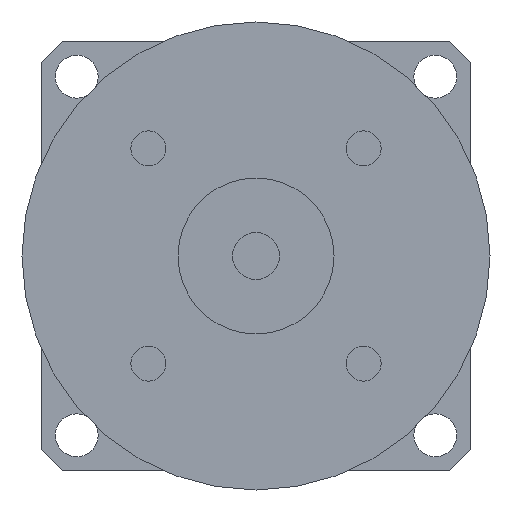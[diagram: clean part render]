
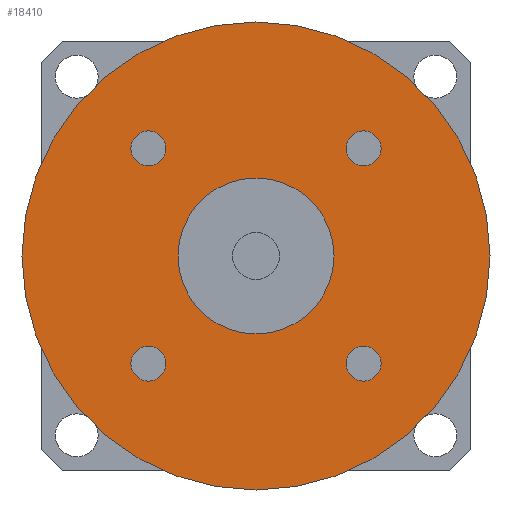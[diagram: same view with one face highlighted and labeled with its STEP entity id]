
A CAD part, left-side view. The second image highlights one B-rep face of the part: STEP entity #18410.
In plain terms, the highlighted planar face has unit normal (-1, 0, 0) as drawn and (0, 0, -1) by its records, which use the part's own axes.
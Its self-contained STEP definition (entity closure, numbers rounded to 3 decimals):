
#11090=CARTESIAN_POINT('',(13.789,-11.539,-58.));
#11100=VERTEX_POINT('',#11090);
#11280=CARTESIAN_POINT('',(13.789,-16.039,-58.));
#11290=VERTEX_POINT('',#11280);
#11320=CARTESIAN_POINT('',(13.789,-13.789,-58.));
#11330=DIRECTION('',(0.,0.,-1.));
#11340=DIRECTION('',(1.,0.,0.));
#11350=AXIS2_PLACEMENT_3D('',#11320,#11330,#11340);
#11360=CIRCLE('',#11350,2.25);
#11370=CARTESIAN_POINT('',(16.039,-13.789,-58.));
#11380=VERTEX_POINT('',#11370);
#11390=EDGE_CURVE('',#11380,#11290,#11360,.T.);
#11410=EDGE_CURVE('',#11100,#11380,#11360,.T.);
#12700=CARTESIAN_POINT('',(0.,0.,
-58.));
#12710=DIRECTION('',(0.,0.,1.));
#12720=DIRECTION('',(0.,-1.,0.));
#12730=AXIS2_PLACEMENT_3D('',#12700,#12710,#12720);
#12740=CIRCLE('',#12730,10.);
#12750=CARTESIAN_POINT('',(0.,-10.,-58.));
#12760=VERTEX_POINT('',#12750);
#12770=CARTESIAN_POINT('',(10.,0.,-58.))
;
#12780=VERTEX_POINT('',#12770);
#12790=EDGE_CURVE('',#12760,#12780,#12740,.T.);
#13020=CARTESIAN_POINT('',(-10.,0.,-58.));
#13030=VERTEX_POINT('',#13020);
#13060=EDGE_CURVE('',#13030,#12760,#12740,.T.);
#17340=CARTESIAN_POINT('',(30.,0.,-58.));
#17350=VERTEX_POINT('',#17340);
#17380=CARTESIAN_POINT('',(0.,0.,
-58.));
#17390=DIRECTION('',(0.,0.,1.));
#17400=DIRECTION('',(0.,-1.,0.));
#17410=AXIS2_PLACEMENT_3D('',#17380,#17390,#17400);
#17420=CIRCLE('',#17410,30.);
#17430=CARTESIAN_POINT('',(0.,-30.,-58.));
#17440=VERTEX_POINT('',#17430);
#17450=EDGE_CURVE('',#17440,#17350,#17420,.T.);
#17470=CARTESIAN_POINT('',(-30.,0.,-58.));
#17480=VERTEX_POINT('',#17470);
#17490=EDGE_CURVE('',#17480,#17440,#17420,.T.);
#17610=CARTESIAN_POINT('',(0.,0.,
-58.));
#17620=DIRECTION('',(0.,0.,1.));
#17630=DIRECTION('',(-1.,0.,0.));
#17640=AXIS2_PLACEMENT_3D('',#17610,#17620,#17630);
#17650=PLANE('',#17640);
#17660=CARTESIAN_POINT('',(13.789,13.789,-58.));
#17670=DIRECTION('',(0.,0.,-1.));
#17680=DIRECTION('',(0.,1.,0.));
#17690=AXIS2_PLACEMENT_3D('',#17660,#17670,#17680);
#17700=CIRCLE('',#17690,2.25);
#17710=CARTESIAN_POINT('',(13.789,16.039,-58.));
#17720=VERTEX_POINT('',#17710);
#17730=CARTESIAN_POINT('',(16.039,13.789,-58.));
#17740=VERTEX_POINT('',#17730);
#17750=EDGE_CURVE('',#17720,#17740,#17700,.T.);
#17760=ORIENTED_EDGE('',*,*,#17750,.F.);
#17770=CARTESIAN_POINT('',(11.539,13.789,-58.));
#17780=VERTEX_POINT('',#17770);
#17790=EDGE_CURVE('',#17740,#17780,#17700,.T.);
#17800=ORIENTED_EDGE('',*,*,#17790,.F.);
#17810=EDGE_CURVE('',#17780,#17720,#17700,.T.);
#17820=ORIENTED_EDGE('',*,*,#17810,.F.);
#17830=EDGE_LOOP('',(#17820,#17800,#17760));
#17840=FACE_BOUND('',#17830,.T.);
#17850=CARTESIAN_POINT('',(-13.789,13.789,-58.));
#17860=DIRECTION('',(0.,0.,-1.));
#17870=DIRECTION('',(-1.,0.,0.));
#17880=AXIS2_PLACEMENT_3D('',#17850,#17860,#17870);
#17890=CIRCLE('',#17880,2.25);
#17900=CARTESIAN_POINT('',(-16.039,13.789,-58.));
#17910=VERTEX_POINT('',#17900);
#17920=CARTESIAN_POINT('',(-13.789,16.039,-58.));
#17930=VERTEX_POINT('',#17920);
#17940=EDGE_CURVE('',#17910,#17930,#17890,.T.);
#17950=ORIENTED_EDGE('',*,*,#17940,.F.);
#17960=CARTESIAN_POINT('',(-13.789,11.539,-58.));
#17970=VERTEX_POINT('',#17960);
#17980=EDGE_CURVE('',#17930,#17970,#17890,.T.);
#17990=ORIENTED_EDGE('',*,*,#17980,.F.);
#18000=EDGE_CURVE('',#17970,#17910,#17890,.T.);
#18010=ORIENTED_EDGE('',*,*,#18000,.F.);
#18020=EDGE_LOOP('',(#18010,#17990,#17950));
#18030=FACE_BOUND('',#18020,.T.);
#18040=CARTESIAN_POINT('',(-13.789,-13.789,-58.));
#18050=DIRECTION('',(0.,0.,-1.));
#18060=DIRECTION('',(0.,-1.,0.));
#18070=AXIS2_PLACEMENT_3D('',#18040,#18050,#18060);
#18080=CIRCLE('',#18070,2.25);
#18090=CARTESIAN_POINT('',(-13.789,-16.039,-58.));
#18100=VERTEX_POINT('',#18090);
#18110=CARTESIAN_POINT('',(-16.039,-13.789,-58.));
#18120=VERTEX_POINT('',#18110);
#18130=EDGE_CURVE('',#18100,#18120,#18080,.T.);
#18140=ORIENTED_EDGE('',*,*,#18130,.F.);
#18150=CARTESIAN_POINT('',(-11.539,-13.789,-58.));
#18160=VERTEX_POINT('',#18150);
#18170=EDGE_CURVE('',#18120,#18160,#18080,.T.);
#18180=ORIENTED_EDGE('',*,*,#18170,.F.);
#18190=EDGE_CURVE('',#18160,#18100,#18080,.T.);
#18200=ORIENTED_EDGE('',*,*,#18190,.F.);
#18210=EDGE_LOOP('',(#18200,#18180,#18140));
#18220=FACE_BOUND('',#18210,.T.);
#18230=EDGE_CURVE('',#12780,#13030,#12740,.T.);
#18240=ORIENTED_EDGE('',*,*,#18230,.T.);
#18250=ORIENTED_EDGE('',*,*,#12790,.T.);
#18260=ORIENTED_EDGE('',*,*,#13060,.T.);
#18270=EDGE_LOOP('',(#18260,#18250,#18240));
#18280=FACE_BOUND('',#18270,.T.);
#18290=ORIENTED_EDGE('',*,*,#11390,.F.);
#18300=EDGE_CURVE('',#11290,#11100,#11360,.T.);
#18310=ORIENTED_EDGE('',*,*,#18300,.F.);
#18320=ORIENTED_EDGE('',*,*,#11410,.F.);
#18330=EDGE_LOOP('',(#18320,#18310,#18290));
#18340=FACE_BOUND('',#18330,.T.);
#18350=ORIENTED_EDGE('',*,*,#17450,.F.);
#18360=EDGE_CURVE('',#17350,#17480,#17420,.T.);
#18370=ORIENTED_EDGE('',*,*,#18360,.F.);
#18380=ORIENTED_EDGE('',*,*,#17490,.F.);
#18390=EDGE_LOOP('',(#18380,#18370,#18350));
#18400=FACE_OUTER_BOUND('',#18390,.T.);
#18410=ADVANCED_FACE('',(#17840,#18030,#18220,#18280,#18340,#18400),
#17650,.F.);
